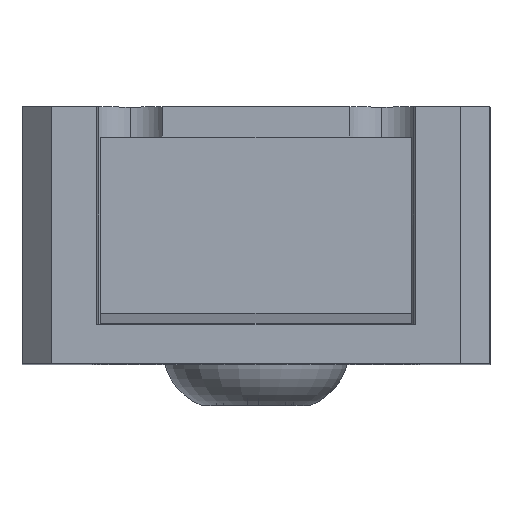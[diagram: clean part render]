
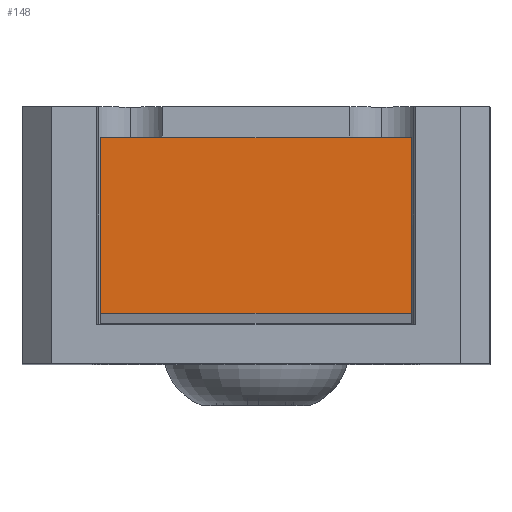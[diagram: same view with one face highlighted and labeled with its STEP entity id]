
A CAD part, top view. The second image highlights one B-rep face of the part: STEP entity #148.
In plain terms, the highlighted planar face has unit normal (0, 0, 1).
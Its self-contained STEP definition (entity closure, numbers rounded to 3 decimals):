
#16 = ORIENTED_EDGE ( 'NONE', *, *, #1105, .T. ) ;
#18 = ORIENTED_EDGE ( 'NONE', *, *, #994, .T. ) ;
#26 = ORIENTED_EDGE ( 'NONE', *, *, #230, .T. ) ;
#83 = VERTEX_POINT ( 'NONE', #2237 ) ;
#118 = DIRECTION ( 'NONE',  ( 0., -1., 0. ) ) ;
#146 = CARTESIAN_POINT ( 'NONE',  ( -2.65, 1.5, 104.218 ) ) ;
#148 = ADVANCED_FACE ( 'NONE', ( #2059 ), #1741, .T. ) ;
#202 = CARTESIAN_POINT ( 'NONE',  ( 2.65, 1.5, 104.218 ) ) ;
#230 = EDGE_CURVE ( 'NONE', #1719, #83, #2003, .T. ) ;
#273 = VECTOR ( 'NONE', #1044, 1000. ) ;
#467 = VECTOR ( 'NONE', #1571, 1000. ) ;
#495 = LINE ( 'NONE', #1950, #467 ) ;
#516 = VECTOR ( 'NONE', #118, 1000. ) ;
#602 = AXIS2_PLACEMENT_3D ( 'NONE', #1397, #1677, #1663 ) ;
#617 = LINE ( 'NONE', #146, #516 ) ;
#957 = VERTEX_POINT ( 'NONE', #202 ) ;
#994 = EDGE_CURVE ( 'NONE', #1047, #1719, #617, .T. ) ;
#1044 = DIRECTION ( 'NONE',  ( 1., 0., 0. ) ) ;
#1047 = VERTEX_POINT ( 'NONE', #1081 ) ;
#1081 = CARTESIAN_POINT ( 'NONE',  ( -2.65, 1.5, 104.218 ) ) ;
#1105 = EDGE_CURVE ( 'NONE', #957, #1047, #2040, .T. ) ;
#1251 = CARTESIAN_POINT ( 'NONE',  ( -2.65, -1.5, 104.218 ) ) ;
#1393 = EDGE_CURVE ( 'NONE', #83, #957, #495, .T. ) ;
#1397 = CARTESIAN_POINT ( 'NONE',  ( 2.65, -1.5, 104.218 ) ) ;
#1571 = DIRECTION ( 'NONE',  ( 0., 1., 0. ) ) ;
#1626 = CARTESIAN_POINT ( 'NONE',  ( -2.65, -1.5, 104.218 ) ) ;
#1663 = DIRECTION ( 'NONE',  ( 1., 0., 0. ) ) ;
#1677 = DIRECTION ( 'NONE',  ( 0., 0., 1. ) ) ;
#1719 = VERTEX_POINT ( 'NONE', #1626 ) ;
#1741 = PLANE ( 'NONE',  #602 ) ;
#1845 = VECTOR ( 'NONE', #2358, 1000. ) ;
#1950 = CARTESIAN_POINT ( 'NONE',  ( 2.65, 1.5, 104.218 ) ) ;
#2003 = LINE ( 'NONE', #1251, #273 ) ;
#2040 = LINE ( 'NONE', #2373, #1845 ) ;
#2059 = FACE_OUTER_BOUND ( 'NONE', #2225, .T. ) ;
#2225 = EDGE_LOOP ( 'NONE', ( #2443, #16, #18, #26 ) ) ;
#2237 = CARTESIAN_POINT ( 'NONE',  ( 2.65, -1.5, 104.218 ) ) ;
#2358 = DIRECTION ( 'NONE',  ( -1., 0., 0. ) ) ;
#2373 = CARTESIAN_POINT ( 'NONE',  ( 2.65, 1.5, 104.218 ) ) ;
#2443 = ORIENTED_EDGE ( 'NONE', *, *, #1393, .T. ) ;
